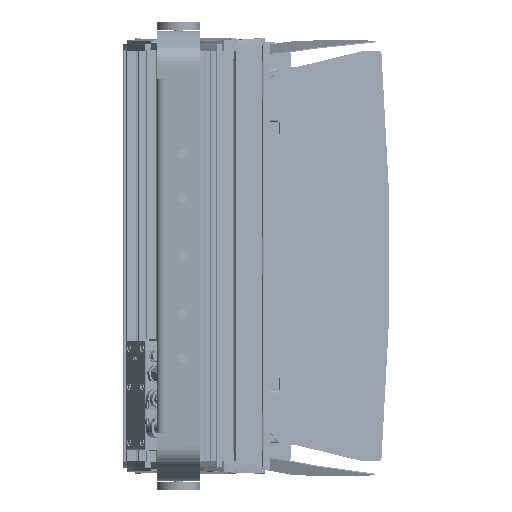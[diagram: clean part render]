
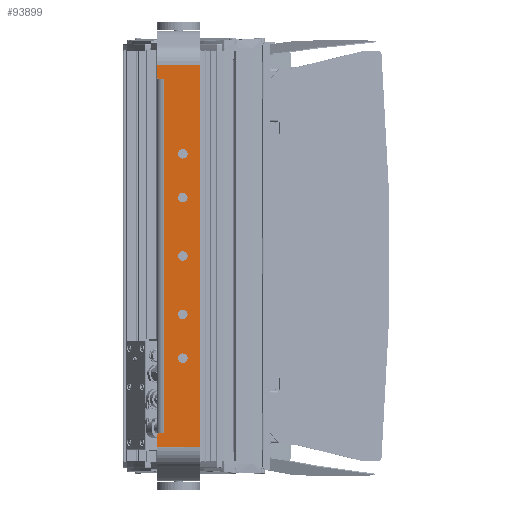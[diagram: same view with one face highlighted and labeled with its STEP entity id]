
A CAD part, front view. The second image highlights one B-rep face of the part: STEP entity #93899.
In plain terms, the highlighted planar face has unit normal (0, -1, 0).
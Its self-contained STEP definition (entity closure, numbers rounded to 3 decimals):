
#4620=FACE_BOUND('',#13908,.T.);
#4621=FACE_BOUND('',#13909,.T.);
#4622=FACE_BOUND('',#13910,.T.);
#4623=FACE_BOUND('',#13911,.T.);
#4624=FACE_BOUND('',#13912,.T.);
#5599=PLANE('',#100920);
#8432=FACE_OUTER_BOUND('',#13907,.T.);
#13907=EDGE_LOOP('',(#64030,#64031,#64032,#64033,#64034,#64035,#64036,#64037,
#64038,#64039,#64040,#64041,#64042,#64043));
#13908=EDGE_LOOP('',(#64044));
#13909=EDGE_LOOP('',(#64045));
#13910=EDGE_LOOP('',(#64046));
#13911=EDGE_LOOP('',(#64047));
#13912=EDGE_LOOP('',(#64048));
#20354=LINE('',#142587,#28359);
#20366=LINE('',#142630,#28371);
#20367=LINE('',#142632,#28372);
#20368=LINE('',#142634,#28373);
#20369=LINE('',#142635,#28374);
#20370=LINE('',#142637,#28375);
#20371=LINE('',#142641,#28376);
#20372=LINE('',#142643,#28377);
#20373=LINE('',#142645,#28378);
#20374=LINE('',#142648,#28379);
#28359=VECTOR('',#112142,10.);
#28371=VECTOR('',#112178,10.);
#28372=VECTOR('',#112179,10.);
#28373=VECTOR('',#112180,10.);
#28374=VECTOR('',#112181,10.);
#28375=VECTOR('',#112182,10.);
#28376=VECTOR('',#112185,10.);
#28377=VECTOR('',#112186,10.);
#28378=VECTOR('',#112187,10.);
#28379=VECTOR('',#112190,10.);
#36361=CIRCLE('',#100907,3.);
#36370=CIRCLE('',#100919,3.);
#36371=CIRCLE('',#100921,0.25);
#36372=CIRCLE('',#100922,0.25);
#36373=CIRCLE('',#100923,6.5);
#36374=CIRCLE('',#100924,6.5);
#36375=CIRCLE('',#100925,6.5);
#36376=CIRCLE('',#100926,6.5);
#36377=CIRCLE('',#100927,6.5);
#41169=VERTEX_POINT('',#142577);
#41170=VERTEX_POINT('',#142579);
#41172=VERTEX_POINT('',#142585);
#41189=VERTEX_POINT('',#142623);
#41190=VERTEX_POINT('',#142624);
#41191=VERTEX_POINT('',#142629);
#41192=VERTEX_POINT('',#142631);
#41193=VERTEX_POINT('',#142633);
#41194=VERTEX_POINT('',#142636);
#41195=VERTEX_POINT('',#142638);
#41196=VERTEX_POINT('',#142640);
#41197=VERTEX_POINT('',#142642);
#41198=VERTEX_POINT('',#142644);
#41199=VERTEX_POINT('',#142646);
#41200=VERTEX_POINT('',#142649);
#41201=VERTEX_POINT('',#142651);
#41202=VERTEX_POINT('',#142653);
#41203=VERTEX_POINT('',#142655);
#41204=VERTEX_POINT('',#142657);
#50048=EDGE_CURVE('',#41169,#41170,#36361,.T.);
#50052=EDGE_CURVE('',#41169,#41172,#20354,.T.);
#50070=EDGE_CURVE('',#41189,#41190,#36370,.T.);
#50073=EDGE_CURVE('',#41191,#41172,#20366,.T.);
#50074=EDGE_CURVE('',#41192,#41191,#20367,.T.);
#50075=EDGE_CURVE('',#41192,#41193,#20368,.T.);
#50076=EDGE_CURVE('',#41193,#41190,#20369,.T.);
#50077=EDGE_CURVE('',#41189,#41194,#20370,.T.);
#50078=EDGE_CURVE('',#41194,#41195,#36371,.T.);
#50079=EDGE_CURVE('',#41195,#41196,#20371,.T.);
#50080=EDGE_CURVE('',#41196,#41197,#20372,.T.);
#50081=EDGE_CURVE('',#41197,#41198,#20373,.T.);
#50082=EDGE_CURVE('',#41198,#41199,#36372,.T.);
#50083=EDGE_CURVE('',#41199,#41170,#20374,.T.);
#50084=EDGE_CURVE('',#41200,#41200,#36373,.T.);
#50085=EDGE_CURVE('',#41201,#41201,#36374,.T.);
#50086=EDGE_CURVE('',#41202,#41202,#36375,.T.);
#50087=EDGE_CURVE('',#41203,#41203,#36376,.T.);
#50088=EDGE_CURVE('',#41204,#41204,#36377,.T.);
#64030=ORIENTED_EDGE('',*,*,#50048,.F.);
#64031=ORIENTED_EDGE('',*,*,#50052,.T.);
#64032=ORIENTED_EDGE('',*,*,#50073,.F.);
#64033=ORIENTED_EDGE('',*,*,#50074,.F.);
#64034=ORIENTED_EDGE('',*,*,#50075,.T.);
#64035=ORIENTED_EDGE('',*,*,#50076,.T.);
#64036=ORIENTED_EDGE('',*,*,#50070,.F.);
#64037=ORIENTED_EDGE('',*,*,#50077,.T.);
#64038=ORIENTED_EDGE('',*,*,#50078,.T.);
#64039=ORIENTED_EDGE('',*,*,#50079,.T.);
#64040=ORIENTED_EDGE('',*,*,#50080,.T.);
#64041=ORIENTED_EDGE('',*,*,#50081,.T.);
#64042=ORIENTED_EDGE('',*,*,#50082,.T.);
#64043=ORIENTED_EDGE('',*,*,#50083,.T.);
#64044=ORIENTED_EDGE('',*,*,#50084,.T.);
#64045=ORIENTED_EDGE('',*,*,#50085,.T.);
#64046=ORIENTED_EDGE('',*,*,#50086,.T.);
#64047=ORIENTED_EDGE('',*,*,#50087,.T.);
#64048=ORIENTED_EDGE('',*,*,#50088,.T.);
#93899=ADVANCED_FACE('',(#8432,#4620,#4621,#4622,#4623,#4624),#5599,.T.);
#100907=AXIS2_PLACEMENT_3D('',#142580,#112135,#112136);
#100919=AXIS2_PLACEMENT_3D('',#142625,#112172,#112173);
#100920=AXIS2_PLACEMENT_3D('',#142628,#112176,#112177);
#100921=AXIS2_PLACEMENT_3D('',#142639,#112183,#112184);
#100922=AXIS2_PLACEMENT_3D('',#142647,#112188,#112189);
#100923=AXIS2_PLACEMENT_3D('',#142650,#112191,#112192);
#100924=AXIS2_PLACEMENT_3D('',#142652,#112193,#112194);
#100925=AXIS2_PLACEMENT_3D('',#142654,#112195,#112196);
#100926=AXIS2_PLACEMENT_3D('',#142656,#112197,#112198);
#100927=AXIS2_PLACEMENT_3D('',#142658,#112199,#112200);
#112135=DIRECTION('center_axis',(0.,1.,0.));
#112136=DIRECTION('ref_axis',(-0.707,0.,0.707));
#112142=DIRECTION('',(0.,0.,-1.));
#112172=DIRECTION('center_axis',(0.,1.,0.));
#112173=DIRECTION('ref_axis',(-0.707,0.,
-0.707));
#112176=DIRECTION('center_axis',(0.,-1.,0.));
#112177=DIRECTION('ref_axis',(1.,0.,0.));
#112178=DIRECTION('',(-1.,0.,0.));
#112179=DIRECTION('',(0.,0.,-1.));
#112180=DIRECTION('',(-1.,0.,0.));
#112181=DIRECTION('',(0.,0.,-1.));
#112182=DIRECTION('',(1.,0.,0.));
#112183=DIRECTION('center_axis',(0.,1.,0.));
#112184=DIRECTION('ref_axis',(0.,0.,
-1.));
#112185=DIRECTION('',(-1.,0.,0.));
#112186=DIRECTION('',(0.,0.,-1.));
#112187=DIRECTION('',(1.,0.,0.));
#112188=DIRECTION('center_axis',(0.,1.,0.));
#112189=DIRECTION('ref_axis',(0.,0.,
1.));
#112190=DIRECTION('',(-1.,0.,0.));
#112191=DIRECTION('center_axis',(0.,1.,0.));
#112192=DIRECTION('ref_axis',(-1.,0.,0.));
#112193=DIRECTION('center_axis',(0.,1.,0.));
#112194=DIRECTION('ref_axis',(-1.,0.,0.));
#112195=DIRECTION('center_axis',(0.,1.,0.));
#112196=DIRECTION('ref_axis',(-1.,0.,0.));
#112197=DIRECTION('center_axis',(0.,1.,0.));
#112198=DIRECTION('ref_axis',(-1.,0.,0.));
#112199=DIRECTION('center_axis',(0.,1.,0.));
#112200=DIRECTION('ref_axis',(-1.,0.,0.));
#142577=CARTESIAN_POINT('',(0.,-5.,-245.682));
#142579=CARTESIAN_POINT('',(3.,-5.,-242.682));
#142580=CARTESIAN_POINT('Origin',(3.,-5.,-245.682));
#142585=CARTESIAN_POINT('',(0.,-5.,-262.182));
#142587=CARTESIAN_POINT('',(0.,-5.,500.424));
#142623=CARTESIAN_POINT('',(3.,-5.,242.682));
#142624=CARTESIAN_POINT('',(0.,-5.,245.682));
#142625=CARTESIAN_POINT('Origin',(3.,-5.,245.682));
#142628=CARTESIAN_POINT('Origin',(30.,-5.,250.212));
#142629=CARTESIAN_POINT('',(60.,-5.,-262.182));
#142630=CARTESIAN_POINT('',(30.,-5.,-262.182));
#142631=CARTESIAN_POINT('',(60.,-5.,262.182));
#142632=CARTESIAN_POINT('',(60.,-5.,500.424));
#142633=CARTESIAN_POINT('',(0.,-5.,262.182));
#142634=CARTESIAN_POINT('',(30.,-5.,262.182));
#142635=CARTESIAN_POINT('',(0.,-5.,500.424));
#142636=CARTESIAN_POINT('',(10.25,-5.,242.682));
#142637=CARTESIAN_POINT('',(15.,-5.,242.682));
#142638=CARTESIAN_POINT('',(10.25,-5.,242.182));
#142639=CARTESIAN_POINT('Origin',(10.25,-5.,242.432));
#142640=CARTESIAN_POINT('',(10.,-5.,242.182));
#142641=CARTESIAN_POINT('',(20.125,-5.,242.182));
#142642=CARTESIAN_POINT('',(10.,-5.,-242.182));
#142643=CARTESIAN_POINT('',(10.,-5.,246.197));
#142644=CARTESIAN_POINT('',(10.25,-5.,-242.182));
#142645=CARTESIAN_POINT('',(15.,-5.,-242.182));
#142646=CARTESIAN_POINT('',(10.25,-5.,-242.682));
#142647=CARTESIAN_POINT('Origin',(10.25,-5.,-242.432));
#142648=CARTESIAN_POINT('',(20.125,-5.,-242.682));
#142649=CARTESIAN_POINT('',(42.5,-5.,140.));
#142650=CARTESIAN_POINT('Origin',(36.,-5.,140.));
#142651=CARTESIAN_POINT('',(42.5,-5.,0.));
#142652=CARTESIAN_POINT('Origin',(36.,-5.,0.));
#142653=CARTESIAN_POINT('',(42.5,-5.,-80.));
#142654=CARTESIAN_POINT('Origin',(36.,-5.,-80.));
#142655=CARTESIAN_POINT('',(42.5,-5.,-140.));
#142656=CARTESIAN_POINT('Origin',(36.,-5.,-140.));
#142657=CARTESIAN_POINT('',(42.5,-5.,80.));
#142658=CARTESIAN_POINT('Origin',(36.,-5.,80.));
